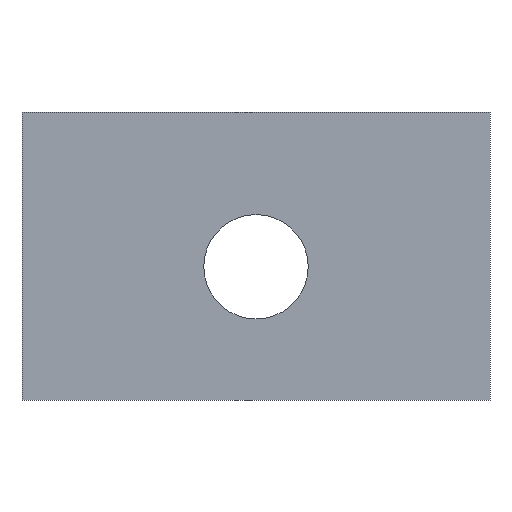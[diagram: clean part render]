
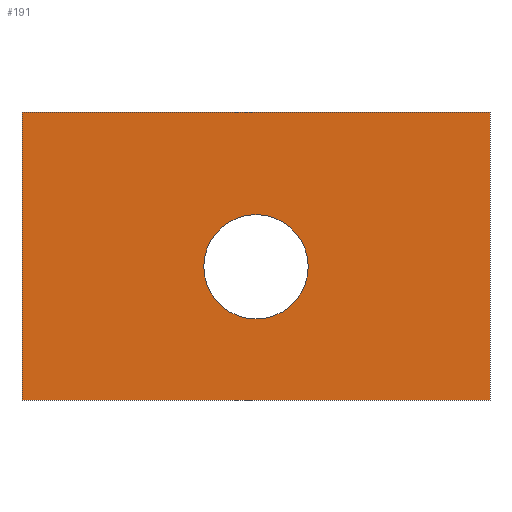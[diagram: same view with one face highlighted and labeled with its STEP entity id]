
A CAD part, front view. The second image highlights one B-rep face of the part: STEP entity #191.
In plain terms, the highlighted planar face has unit normal (0, -1, 0).
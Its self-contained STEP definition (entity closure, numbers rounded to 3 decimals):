
#3 = EDGE_CURVE ( 'NONE', #13, #45, #50, .T. ) ;
#5 = EDGE_CURVE ( 'NONE', #197, #13, #220, .T. ) ;
#13 = VERTEX_POINT ( 'NONE', #277 ) ;
#14 = VECTOR ( 'NONE', #261, 1000. ) ;
#21 = EDGE_LOOP ( 'NONE', ( #276, #183 ) ) ;
#23 = CARTESIAN_POINT ( 'NONE',  ( 0., 0., -80. ) ) ;
#38 = AXIS2_PLACEMENT_3D ( 'NONE', #73, #194, #52 ) ;
#42 = ORIENTED_EDGE ( 'NONE', *, *, #3, .F. ) ;
#44 = FACE_OUTER_BOUND ( 'NONE', #127, .T. ) ;
#45 = VERTEX_POINT ( 'NONE', #96 ) ;
#50 = LINE ( 'NONE', #165, #54 ) ;
#52 = DIRECTION ( 'NONE',  ( 0., 0., 1. ) ) ;
#54 = VECTOR ( 'NONE', #72, 1000. ) ;
#59 = EDGE_CURVE ( 'NONE', #271, #295, #99, .T. ) ;
#67 = DIRECTION ( 'NONE',  ( 1., 0., 0. ) ) ;
#72 = DIRECTION ( 'NONE',  ( 0., 0., -1. ) ) ;
#73 = CARTESIAN_POINT ( 'NONE',  ( 65., 0., -43. ) ) ;
#76 = CARTESIAN_POINT ( 'NONE',  ( 65., 0., -28.5 ) ) ;
#79 = PLANE ( 'NONE',  #175 ) ;
#84 = CARTESIAN_POINT ( 'NONE',  ( 0., 0., 0. ) ) ;
#96 = CARTESIAN_POINT ( 'NONE',  ( 130., 0., -80. ) ) ;
#99 = CIRCLE ( 'NONE', #251, 14.5 ) ;
#100 = DIRECTION ( 'NONE',  ( 0., 1., 0. ) ) ;
#122 = CARTESIAN_POINT ( 'NONE',  ( 0., 0., 0. ) ) ;
#127 = EDGE_LOOP ( 'NONE', ( #288, #205, #42, #228 ) ) ;
#128 = DIRECTION ( 'NONE',  ( -1., 0., 0. ) ) ;
#136 = EDGE_CURVE ( 'NONE', #295, #271, #181, .T. ) ;
#155 = CARTESIAN_POINT ( 'NONE',  ( 65., 0., -57.5 ) ) ;
#163 = VECTOR ( 'NONE', #128, 1000. ) ;
#165 = CARTESIAN_POINT ( 'NONE',  ( 130., 0., 0. ) ) ;
#175 = AXIS2_PLACEMENT_3D ( 'NONE', #259, #240, #199 ) ;
#181 = CIRCLE ( 'NONE', #38, 14.5 ) ;
#183 = ORIENTED_EDGE ( 'NONE', *, *, #59, .T. ) ;
#185 = LINE ( 'NONE', #84, #14 ) ;
#191 = ADVANCED_FACE ( 'NONE', ( #44, #269 ), #79, .T. ) ;
#194 = DIRECTION ( 'NONE',  ( 0., 1., 0. ) ) ;
#197 = VERTEX_POINT ( 'NONE', #122 ) ;
#199 = DIRECTION ( 'NONE',  ( 0., 0., -1. ) ) ;
#205 = ORIENTED_EDGE ( 'NONE', *, *, #257, .F. ) ;
#218 = EDGE_CURVE ( 'NONE', #250, #197, #185, .T. ) ;
#220 = LINE ( 'NONE', #308, #225 ) ;
#224 = LINE ( 'NONE', #241, #163 ) ;
#225 = VECTOR ( 'NONE', #67, 1000. ) ;
#228 = ORIENTED_EDGE ( 'NONE', *, *, #5, .F. ) ;
#235 = DIRECTION ( 'NONE',  ( 0., 0., 1. ) ) ;
#240 = DIRECTION ( 'NONE',  ( 0., -1., 0. ) ) ;
#241 = CARTESIAN_POINT ( 'NONE',  ( 0., 0., -80. ) ) ;
#250 = VERTEX_POINT ( 'NONE', #23 ) ;
#251 = AXIS2_PLACEMENT_3D ( 'NONE', #279, #100, #235 ) ;
#257 = EDGE_CURVE ( 'NONE', #45, #250, #224, .T. ) ;
#259 = CARTESIAN_POINT ( 'NONE',  ( 0., 0., 0. ) ) ;
#261 = DIRECTION ( 'NONE',  ( 0., 0., 1. ) ) ;
#269 = FACE_BOUND ( 'NONE', #21, .T. ) ;
#271 = VERTEX_POINT ( 'NONE', #76 ) ;
#276 = ORIENTED_EDGE ( 'NONE', *, *, #136, .T. ) ;
#277 = CARTESIAN_POINT ( 'NONE',  ( 130., 0., 0. ) ) ;
#279 = CARTESIAN_POINT ( 'NONE',  ( 65., 0., -43. ) ) ;
#288 = ORIENTED_EDGE ( 'NONE', *, *, #218, .F. ) ;
#295 = VERTEX_POINT ( 'NONE', #155 ) ;
#308 = CARTESIAN_POINT ( 'NONE',  ( 0., 0., 0. ) ) ;
